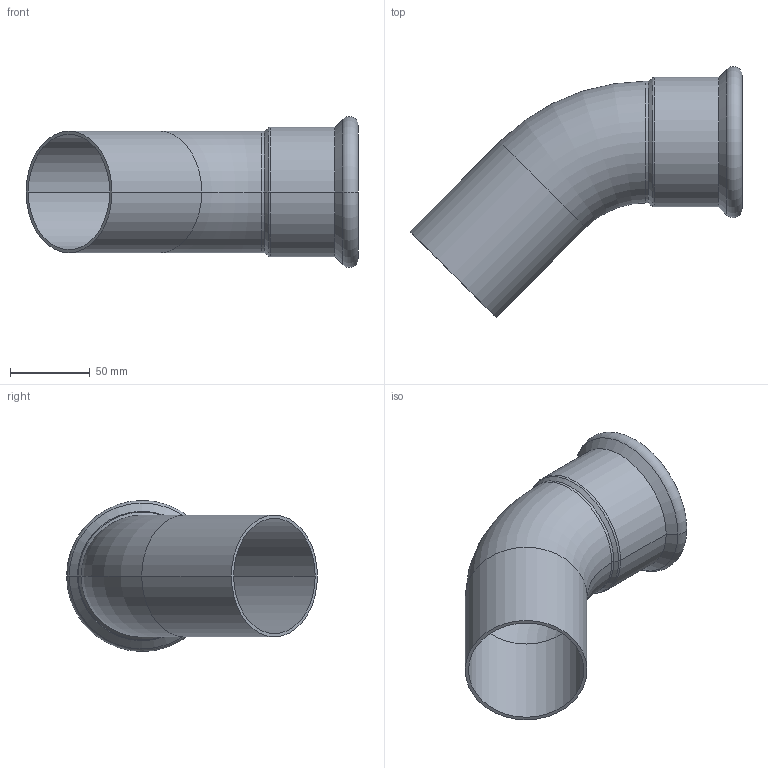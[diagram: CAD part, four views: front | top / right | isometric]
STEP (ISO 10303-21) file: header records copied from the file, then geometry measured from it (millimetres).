
FILE_DESCRIPTION(('OneSpaceDesigner STEP Export'),'2;1');
FILE_NAME('R2713 76x76.stp','2010-06-10T 8:32:49',(''),(''),'OneSpace Designer STEP processor for AP214 (Solid Model)','OneSpace Modeling 15.00A 14-Mar-2007 (C) CoCreate Software GmbH','');
FILE_SCHEMA(('AUTOMOTIVE_DESIGN { 1 0 10303 214 1 1 1 1 }'));
Length unit declared in the file: millimetre
Products named in the file (2): R2713_76x76
Assembly tree (1 placements, depth 2):
  R2713_76x76
    R2713_76x76
Bounding box: 207.64 x 156.88 x 94.48 mm (x, y, z)
Volume: 122011.8 mm3; surface area: 107900.3 mm2
Topology: 1 solids, 1 shells, 66 faces, 160 edges, 101 vertices
Faces by surface type: plane 31, cylinder 23, torus 8, cone 4
Entity records: 1721 total; most frequent: ORIENTED_EDGE 320, CARTESIAN_POINT 274, DIRECTION 253, EDGE_CURVE 160, VERTEX_POINT 101, VECTOR 93, LINE 93, AXIS2_PLACEMENT_3D 80
